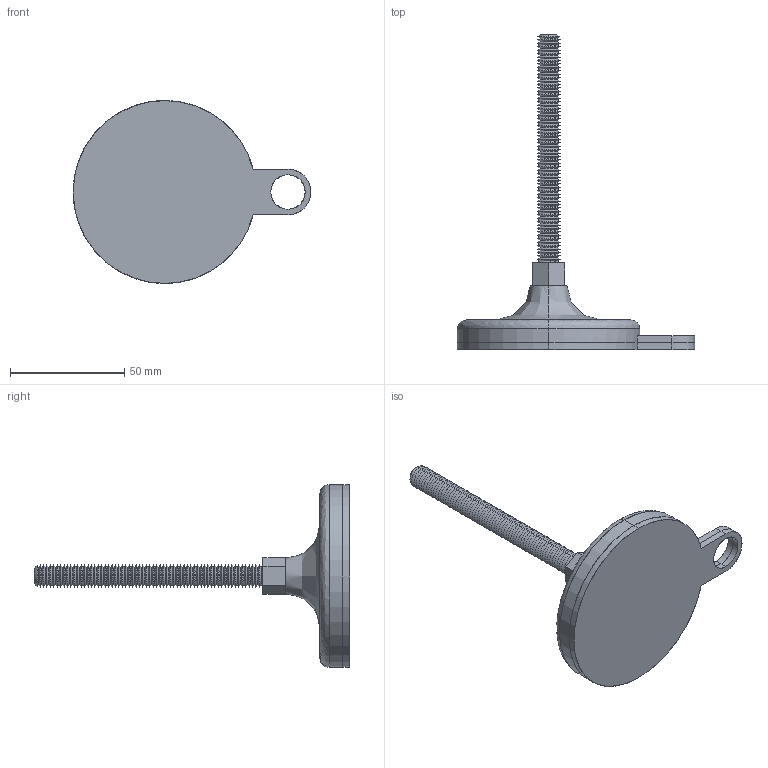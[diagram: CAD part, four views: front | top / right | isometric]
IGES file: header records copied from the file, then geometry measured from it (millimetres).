
Start section: SolidWorks IGES file using analytic representation for surfaces
Global section: file name: C:\Users\liam_\OneDrive\Documents\WORK\Work for WixRoyd\Job Files\J-00026 - Matt Davis CAD - 20191124\04. CAD Drawings\Wixroyd20191124\34704_v2\34704_v2_20191128_IGES\34704.W1001.igs; native system: SolidWorks 2017; preprocessor: SolidWorks 2017; author: liam_; date: 191128.202257; units: millimetre
Bounding box: 104 x 138 x 80 mm (x, y, z)
Surface area: 30962.9 mm2 (no closed solid volume)
Topology: 0 solids, 0 shells, 310 faces, 1860 edges, 1860 vertices
Faces by surface type: revolution 277, bspline 33
